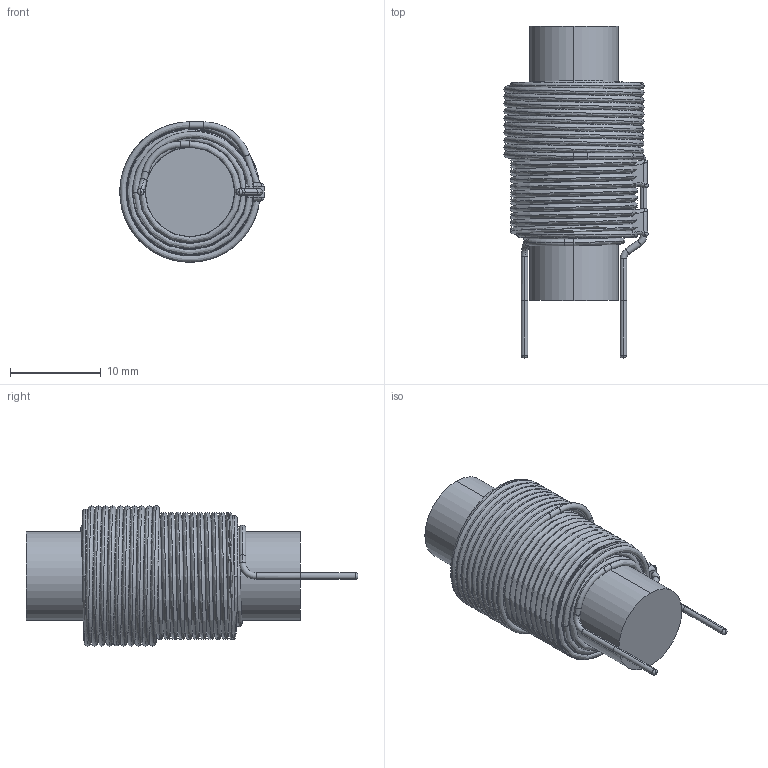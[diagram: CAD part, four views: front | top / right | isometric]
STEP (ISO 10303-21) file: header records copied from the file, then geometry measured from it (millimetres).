
FILE_DESCRIPTION (( 'STEP AP203' ), '1' );
FILE_NAME ('PV-154-03.STEP', '2020-10-05T03:54:39', ( 'Windows User' ), ( '' ), 'SwSTEP 2.0', 'SolidWorks 2015', '' );
FILE_SCHEMA (( 'CONFIG_CONTROL_DESIGN' ));
Length unit declared in the file: inch
Products named in the file (3): PV-154-03; PV-154-03 - COIL; PV-154-03 - CORE
Assembly tree (2 placements, depth 2):
  PV-154-03
    PV-154-03 - CORE
    PV-154-03 - COIL
Bounding box: 15.93 x 36.61 x 15.48 mm (x, y, z)
Volume: 3456.4 mm3; surface area: 7636.3 mm2
Topology: 14 solids, 14 shells, 104 faces, 212 edges, 128 vertices
Faces by surface type: bspline 36, plane 30, cylinder 22, torus 16
Entity records: 30363 total; most frequent: CARTESIAN_POINT 28167, ORIENTED_EDGE 408, DIRECTION 360, EDGE_CURVE 204, AXIS2_PLACEMENT_3D 165, VERTEX_POINT 128, ADVANCED_FACE 104, EDGE_LOOP 104
